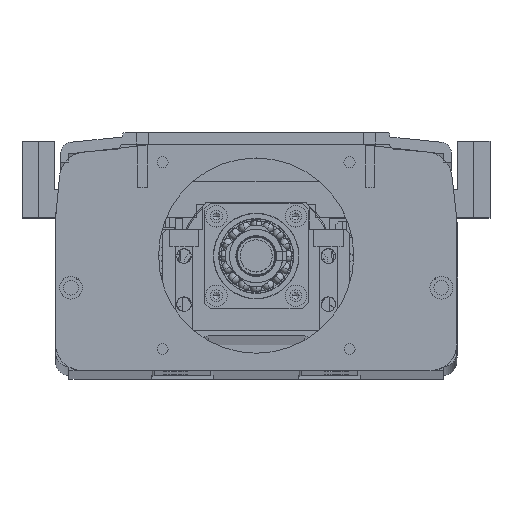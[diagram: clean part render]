
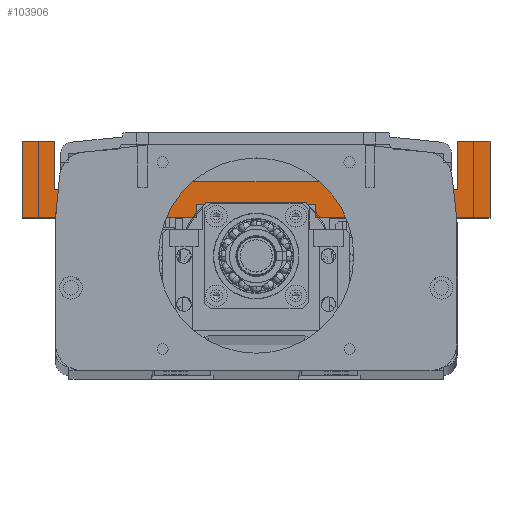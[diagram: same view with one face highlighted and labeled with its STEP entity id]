
A CAD part, top view. The second image highlights one B-rep face of the part: STEP entity #103906.
In plain terms, the highlighted planar face has unit normal (0, 0, 1).
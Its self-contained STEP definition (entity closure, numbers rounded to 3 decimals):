
#1213 = ORIENTED_EDGE ( 'NONE', *, *, #56117, .F. ) ;
#2521 = ORIENTED_EDGE ( 'NONE', *, *, #70136, .T. ) ;
#3272 = DIRECTION ( 'NONE',  ( 0., -1., 0. ) ) ;
#4206 = LINE ( 'NONE', #100916, #72761 ) ;
#6554 = VERTEX_POINT ( 'NONE', #57185 ) ;
#6907 = VECTOR ( 'NONE', #35558, 1000. ) ;
#8621 = DIRECTION ( 'NONE',  ( 0., 0., 1. ) ) ;
#8707 = LINE ( 'NONE', #61083, #32454 ) ;
#9993 = EDGE_CURVE ( 'NONE', #52647, #104698, #19152, .T. ) ;
#10554 = CARTESIAN_POINT ( 'NONE',  ( 97.209, -63.676, 150. ) ) ;
#10647 = CARTESIAN_POINT ( 'NONE',  ( 105.709, -35.176, 150. ) ) ;
#11259 = VECTOR ( 'NONE', #33345, 1000. ) ;
#11524 = EDGE_CURVE ( 'NONE', #49072, #81687, #111379, .T. ) ;
#12279 = VERTEX_POINT ( 'NONE', #34639 ) ;
#12844 = CARTESIAN_POINT ( 'NONE',  ( -45.291, -53.176, 150. ) ) ;
#12961 = CARTESIAN_POINT ( 'NONE',  ( -45.291, -35.176, 150. ) ) ;
#13884 = EDGE_CURVE ( 'NONE', #106270, #95801, #23077, .T. ) ;
#15543 = ORIENTED_EDGE ( 'NONE', *, *, #26249, .T. ) ;
#16156 = LINE ( 'NONE', #51876, #60918 ) ;
#18533 = VECTOR ( 'NONE', #38678, 1000. ) ;
#18771 = VERTEX_POINT ( 'NONE', #12961 ) ;
#19152 = LINE ( 'NONE', #90461, #90562 ) ;
#19542 = DIRECTION ( 'NONE',  ( 0., 1., 0. ) ) ;
#19799 = VECTOR ( 'NONE', #40236, 1000. ) ;
#21226 = ORIENTED_EDGE ( 'NONE', *, *, #103915, .F. ) ;
#21236 = CARTESIAN_POINT ( 'NONE',  ( 7.959, -58.676, 150. ) ) ;
#21784 = ORIENTED_EDGE ( 'NONE', *, *, #13884, .T. ) ;
#23077 = LINE ( 'NONE', #87363, #46845 ) ;
#24911 = LINE ( 'NONE', #21236, #66916 ) ;
#26197 = CARTESIAN_POINT ( 'NONE',  ( -57.291, -63.676, 150. ) ) ;
#26249 = EDGE_CURVE ( 'NONE', #84526, #52647, #79825, .T. ) ;
#26364 = LINE ( 'NONE', #52013, #41695 ) ;
#27144 = CARTESIAN_POINT ( 'NONE',  ( 7.959, -58.676, 150. ) ) ;
#28869 = EDGE_LOOP ( 'NONE', ( #1213, #74675, #21226, #82596, #114592, #88735, #21784, #81413, #2521, #106928, #15543, #84563, #81294, #110221, #94200, #109331 ) ) ;
#31689 = LINE ( 'NONE', #68033, #100286 ) ;
#32102 = VERTEX_POINT ( 'NONE', #72547 ) ;
#32454 = VECTOR ( 'NONE', #114682, 1000. ) ;
#33345 = DIRECTION ( 'NONE',  ( -1., 0., 0. ) ) ;
#34639 = CARTESIAN_POINT ( 'NONE',  ( 52.459, -58.676, 150. ) ) ;
#35008 = LINE ( 'NONE', #86995, #11259 ) ;
#35558 = DIRECTION ( 'NONE',  ( 0., 1., 0. ) ) ;
#36834 = DIRECTION ( 'NONE',  ( -1., 0., 0. ) ) ;
#36980 = CARTESIAN_POINT ( 'NONE',  ( 117.709, -63.676, 150. ) ) ;
#36999 = VERTEX_POINT ( 'NONE', #62743 ) ;
#37835 = CARTESIAN_POINT ( 'NONE',  ( -57.291, -63.676, 150. ) ) ;
#38276 = EDGE_CURVE ( 'NONE', #81687, #6554, #26364, .T. ) ;
#38315 = DIRECTION ( 'NONE',  ( 0., -1., 0. ) ) ;
#38678 = DIRECTION ( 'NONE',  ( -1., 0., 0. ) ) ;
#40236 = DIRECTION ( 'NONE',  ( -1., 0., 0. ) ) ;
#41220 = EDGE_CURVE ( 'NONE', #12279, #36999, #68128, .T. ) ;
#41695 = VECTOR ( 'NONE', #105588, 1000. ) ;
#43844 = EDGE_CURVE ( 'NONE', #104698, #18771, #16156, .T. ) ;
#45092 = LINE ( 'NONE', #92315, #18533 ) ;
#46049 = LINE ( 'NONE', #89194, #6907 ) ;
#46845 = VECTOR ( 'NONE', #96324, 1000. ) ;
#47114 = VECTOR ( 'NONE', #53727, 1000. ) ;
#49072 = VERTEX_POINT ( 'NONE', #102016 ) ;
#51632 = FACE_OUTER_BOUND ( 'NONE', #28869, .T. ) ;
#51876 = CARTESIAN_POINT ( 'NONE',  ( -45.291, -35.176, 150. ) ) ;
#52013 = CARTESIAN_POINT ( 'NONE',  ( 117.709, -35.176, 150. ) ) ;
#52086 = CARTESIAN_POINT ( 'NONE',  ( -36.791, -63.676, 150. ) ) ;
#52647 = VERTEX_POINT ( 'NONE', #111583 ) ;
#53727 = DIRECTION ( 'NONE',  ( -1., 0., 0. ) ) ;
#54784 = AXIS2_PLACEMENT_3D ( 'NONE', #26197, #8621, #71180 ) ;
#55565 = VERTEX_POINT ( 'NONE', #115576 ) ;
#56117 = EDGE_CURVE ( 'NONE', #36999, #78381, #24911, .T. ) ;
#57185 = CARTESIAN_POINT ( 'NONE',  ( 117.709, -35.176, 150. ) ) ;
#60918 = VECTOR ( 'NONE', #113707, 1000. ) ;
#61083 = CARTESIAN_POINT ( 'NONE',  ( 105.709, -35.176, 150. ) ) ;
#62743 = CARTESIAN_POINT ( 'NONE',  ( 7.959, -58.676, 150. ) ) ;
#66916 = VECTOR ( 'NONE', #3272, 1000. ) ;
#68033 = CARTESIAN_POINT ( 'NONE',  ( -57.291, -63.676, 150. ) ) ;
#68128 = LINE ( 'NONE', #27144, #47114 ) ;
#70136 = EDGE_CURVE ( 'NONE', #55565, #90575, #113629, .T. ) ;
#70801 = PLANE ( 'NONE',  #54784 ) ;
#71180 = DIRECTION ( 'NONE',  ( 1., 0., 0. ) ) ;
#72547 = CARTESIAN_POINT ( 'NONE',  ( -57.291, -35.176, 150. ) ) ;
#72761 = VECTOR ( 'NONE', #38315, 1000. ) ;
#74675 = ORIENTED_EDGE ( 'NONE', *, *, #41220, .F. ) ;
#75955 = EDGE_CURVE ( 'NONE', #18771, #32102, #45092, .T. ) ;
#77050 = DIRECTION ( 'NONE',  ( 1., 0., 0. ) ) ;
#78381 = VERTEX_POINT ( 'NONE', #84684 ) ;
#79825 = LINE ( 'NONE', #52086, #103552 ) ;
#81294 = ORIENTED_EDGE ( 'NONE', *, *, #43844, .T. ) ;
#81413 = ORIENTED_EDGE ( 'NONE', *, *, #82340, .T. ) ;
#81687 = VERTEX_POINT ( 'NONE', #36980 ) ;
#82099 = CARTESIAN_POINT ( 'NONE',  ( 105.709, -53.176, 150. ) ) ;
#82340 = EDGE_CURVE ( 'NONE', #95801, #55565, #35008, .T. ) ;
#82596 = ORIENTED_EDGE ( 'NONE', *, *, #11524, .T. ) ;
#83398 = EDGE_CURVE ( 'NONE', #32102, #90835, #4206, .T. ) ;
#84526 = VERTEX_POINT ( 'NONE', #109757 ) ;
#84563 = ORIENTED_EDGE ( 'NONE', *, *, #9993, .T. ) ;
#84684 = CARTESIAN_POINT ( 'NONE',  ( 7.959, -63.676, 150. ) ) ;
#86995 = CARTESIAN_POINT ( 'NONE',  ( -57.291, -53.176, 150. ) ) ;
#87363 = CARTESIAN_POINT ( 'NONE',  ( 105.709, -35.176, 150. ) ) ;
#87624 = VECTOR ( 'NONE', #91459, 1000. ) ;
#88735 = ORIENTED_EDGE ( 'NONE', *, *, #98225, .T. ) ;
#89194 = CARTESIAN_POINT ( 'NONE',  ( 52.459, -58.676, 150. ) ) ;
#89876 = VECTOR ( 'NONE', #19542, 1000. ) ;
#89906 = CARTESIAN_POINT ( 'NONE',  ( -57.291, -63.676, 150. ) ) ;
#90461 = CARTESIAN_POINT ( 'NONE',  ( -57.291, -53.176, 150. ) ) ;
#90562 = VECTOR ( 'NONE', #36834, 1000. ) ;
#90575 = VERTEX_POINT ( 'NONE', #94956 ) ;
#90835 = VERTEX_POINT ( 'NONE', #89906 ) ;
#91459 = DIRECTION ( 'NONE',  ( 1., 0., 0. ) ) ;
#92315 = CARTESIAN_POINT ( 'NONE',  ( -57.291, -35.176, 150. ) ) ;
#94200 = ORIENTED_EDGE ( 'NONE', *, *, #83398, .T. ) ;
#94956 = CARTESIAN_POINT ( 'NONE',  ( 97.209, -50.176, 150. ) ) ;
#95801 = VERTEX_POINT ( 'NONE', #82099 ) ;
#96324 = DIRECTION ( 'NONE',  ( 0., -1., 0. ) ) ;
#98225 = EDGE_CURVE ( 'NONE', #6554, #106270, #8707, .T. ) ;
#99306 = EDGE_CURVE ( 'NONE', #90575, #84526, #112161, .T. ) ;
#100286 = VECTOR ( 'NONE', #77050, 1000. ) ;
#100916 = CARTESIAN_POINT ( 'NONE',  ( -57.291, -35.176, 150. ) ) ;
#102016 = CARTESIAN_POINT ( 'NONE',  ( 52.459, -63.676, 150. ) ) ;
#102835 = CARTESIAN_POINT ( 'NONE',  ( -45.291, -50.176, 150. ) ) ;
#103552 = VECTOR ( 'NONE', #105661, 1000. ) ;
#103906 = ADVANCED_FACE ( 'NONE', ( #51632 ), #70801, .T. ) ;
#103915 = EDGE_CURVE ( 'NONE', #49072, #12279, #46049, .T. ) ;
#104698 = VERTEX_POINT ( 'NONE', #12844 ) ;
#105588 = DIRECTION ( 'NONE',  ( 0., 1., 0. ) ) ;
#105661 = DIRECTION ( 'NONE',  ( 0., -1., 0. ) ) ;
#106270 = VERTEX_POINT ( 'NONE', #10647 ) ;
#106928 = ORIENTED_EDGE ( 'NONE', *, *, #99306, .T. ) ;
#109187 = EDGE_CURVE ( 'NONE', #90835, #78381, #31689, .T. ) ;
#109331 = ORIENTED_EDGE ( 'NONE', *, *, #109187, .T. ) ;
#109757 = CARTESIAN_POINT ( 'NONE',  ( -36.791, -50.176, 150. ) ) ;
#110221 = ORIENTED_EDGE ( 'NONE', *, *, #75955, .T. ) ;
#111379 = LINE ( 'NONE', #37835, #87624 ) ;
#111583 = CARTESIAN_POINT ( 'NONE',  ( -36.791, -53.176, 150. ) ) ;
#112161 = LINE ( 'NONE', #102835, #19799 ) ;
#113629 = LINE ( 'NONE', #10554, #89876 ) ;
#113707 = DIRECTION ( 'NONE',  ( 0., 1., 0. ) ) ;
#114592 = ORIENTED_EDGE ( 'NONE', *, *, #38276, .T. ) ;
#114682 = DIRECTION ( 'NONE',  ( -1., 0., 0. ) ) ;
#115576 = CARTESIAN_POINT ( 'NONE',  ( 97.209, -53.176, 150. ) ) ;
